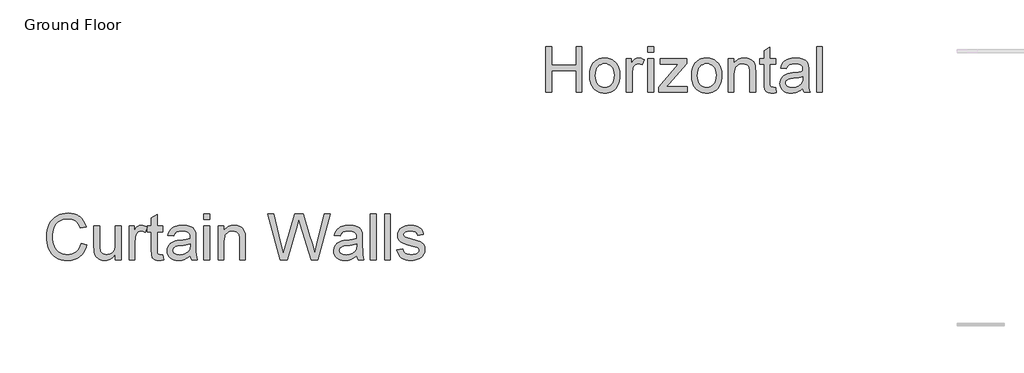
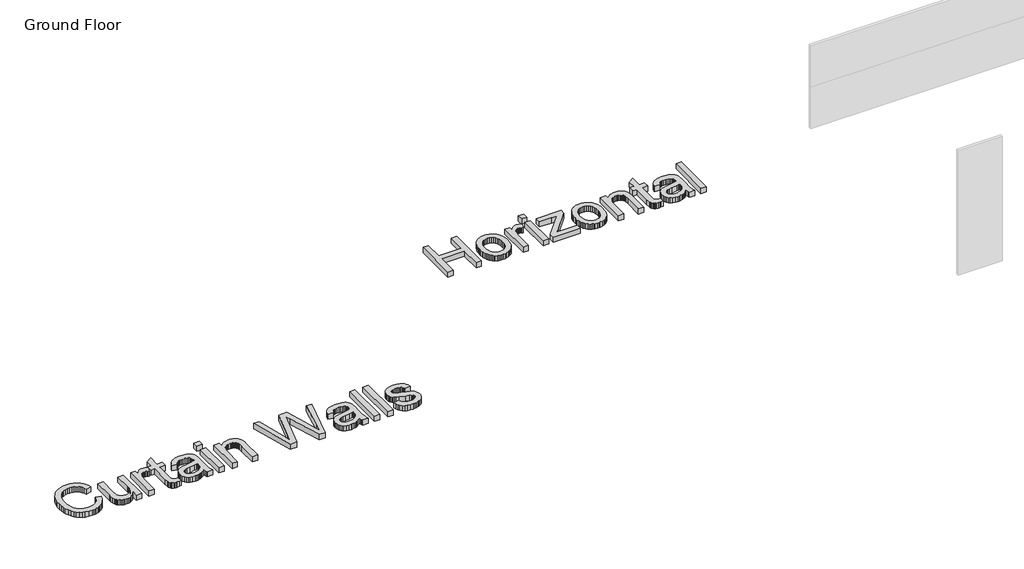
# One storey, part 4 of 7: 2 proxies.
"""IFC4 building model written with IfcOpenShell, lengths in millimetres."""

from ifc_helpers import new_model, si_unit, origin, origin_with_axes, place, context, project, spatial, polyline, outline, extrude, element, save

model = new_model("IFC4")

# Units and contexts
model_context = context("Model", 3, world=origin())
ifc_project = project(units=[si_unit("LENGTHUNIT", "METRE", prefix="MILLI")], contexts=[model_context])

# Site, building, storey
site = spatial("IfcSite", under=ifc_project)
building = spatial("IfcBuilding", under=site)
storey = spatial("IfcBuildingStorey", under=building, Name="Ground Floor", Elevation=0.0)

# Proxies
placement = place(None, origin())
element("IfcBuildingElementProxy", 1, Name="1200mm Arial", ObjectType="1200mm Arial", at=placement, inside=storey, context=model_context, shape_type="SweptSolid", body=[
    extrude(outline(polyline([(-73405.7068137, -17.5087086), (-73258.7977228, -55.3837086), (-73287.8675026, -146.7445929), (-73306.0204234, -188.1008828), (-73326.5853648, -226.5744047), (-73349.5623268, -262.1651584), (-73374.9513094, -294.873144), (-73402.7523126, -324.6983615), (-73432.9653364, -351.6408109), (-73465.2630992, -375.5480597), (-73499.3183194, -396.2676753), (-73535.1309969, -413.7996577), (-73572.7011319, -428.1440069), (-73612.0287242, -439.300723), (-73653.1137739, -447.2698059), (-73695.956281, -452.0512557), (-73740.5562455, -453.6450723), (-73830.1417391, -448.8210311), (-73910.9578791, -434.3489075), (-73983.0046653, -410.2287015), (-74046.2820978, -376.4604132), (-74101.6599387, -333.5461731), (-74150.0079501, -281.988112), (-74191.3261319, -221.7862299), (-74225.6144842, -152.9405268), (-74252.541242, -78.4279203), (-74271.7746404, -1.225328), (-74283.3146795, 78.6672502), (-74287.1613592, 161.2498141), (-74282.8125488, 249.8579462), (-74269.7661177, 332.6198425), (-74248.0220658, 409.535503), (-74217.5803933, 480.6049277), (-74179.122563, 544.6534895), (-74133.3300381, 600.5065612), (-74080.2028187, 648.1641429), (-74019.7409046, 687.6262345), (-73953.9976518, 718.5700378), (-73885.026416, 740.6727544), (-73812.8271972, 753.9343844), (-73737.3999955, 758.3549277), (-73653.3738059, 752.6342246), (-73576.3236461, 735.4721152), (-73540.4145774, 722.6005332), (-73506.2495161, 706.8685996), (-73473.8284623, 688.2763144), (-73443.151416, 666.8236777), (-73414.4784091, 642.7752047), (-73388.0694735, 616.3954107), (-73363.9246093, 587.6842956), (-73342.0438166, 556.6418595), (-73305.0744451, 487.5630243), (-73277.1613592, 409.158905), (-73424.0704501, 374.1532232), (-73447.2043279, 431.9251514), (-73475.0008478, 481.2863908), (-73507.4600097, 522.2369412), (-73544.5818137, 554.7768027), (-73586.5814586, 579.5695051), (-73633.6741433, 597.2785783), (-73685.8598677, 607.9040222), (-73743.1386319, 611.4458368), (-73809.0432839, 607.5184576), (-73869.3168989, 595.7363198), (-73923.9594771, 576.0994235), (-73972.9710183, 548.6077686), (-74015.7328258, 514.4987487), (-74051.6262029, 475.0097573), (-74080.6511496, 430.1407942), (-74102.807666, 379.8918595), (-74119.1896795, 326.5404746), (-74130.8911177, 272.3641607), (-74137.9119806, 217.3629178), (-74140.2522683, 161.5367459), (-74137.4815829, 91.3819164), (-74129.1695268, 25.8179959), (-74115.3160999, -35.1550155), (-74095.9213023, -91.5371177), (-74070.6713023, -142.2074835), (-74039.2522683, -186.0452853), (-74001.6642001, -223.0505233), (-73957.9070978, -253.2231973), (-73910.1060502, -276.6350403), (-73860.3861461, -293.3577853), (-73808.7473854, -303.3914324), (-73755.1897683, -306.7359814), (-73691.3205389, -302.1809388), (-73632.5622825, -288.5158109), (-73578.9149991, -265.7405978), (-73530.3786887, -233.8552995), (-73488.1010786, -193.0033819), (-73453.2298961, -143.3283109), (-73425.7651411, -84.8300865), (-73405.7068137, -17.5087086)])), origin_with_axes(), (0.0, 0.0, 1.0), 150.0),
    extrude(outline(polyline([(-72524.2522683, -435.2814359), (-72524.2522683, -286.9376859), (-72549.7354004, -326.0097296), (-72577.4063876, -359.8721674), (-72607.2652299, -388.5249995), (-72639.3119273, -411.9682257), (-72673.5464799, -430.2018461), (-72709.9688876, -443.2258606), (-72748.5791504, -451.0402694), (-72789.3772683, -453.6450723), (-72825.7727761, -451.8158819), (-72860.9308904, -446.3283109), (-72894.8516113, -437.1823592), (-72927.5349387, -424.3780268), (-72957.5372469, -408.8119757), (-72983.4149103, -391.3808677), (-73005.1679288, -372.084703), (-73022.7963023, -350.9234814), (-73037.2056596, -327.5923379), (-73049.3016291, -301.7864075), (-73066.5534046, -242.7501859), (-73073.0093705, -187.0854132), (-73075.1613592, -106.1706405), (-73075.1613592, 427.8094732), (-72928.2522683, 427.8094732), (-72928.2522683, -37.0200723), (-72926.0285467, -129.9859814), (-72919.3573819, -186.7984814), (-72910.5611283, -213.2769082), (-72897.945095, -236.7604842), (-72881.5092817, -257.2492093), (-72861.2536887, -274.7430836), (-72837.788046, -288.7399764), (-72811.7220836, -298.7377569), (-72783.0558016, -304.7364253), (-72751.7892001, -306.7359814), (-72719.5900701, -304.6915922), (-72688.4131347, -298.5584245), (-72658.258394, -288.3364785), (-72629.1258478, -274.0257541), (-72602.5936212, -256.1911483), (-72580.2398393, -235.3975581), (-72562.0645019, -211.6449835), (-72548.0676092, -184.9334245), (-72537.6483975, -153.5592236), (-72530.2061035, -115.8187228), (-72525.7407271, -71.7119224), (-72524.2522683, -21.2388223), (-72524.2522683, 427.8094732), (-72377.3431773, 427.8094732), (-72377.3431773, -435.2814359), (-72524.2522683, -435.2814359)])), origin_with_axes(), (0.0, 0.0, 1.0), 150.0),
    extrude(outline(polyline([(-72175.3431773, -435.2814359), (-72175.3431773, 427.8094732), (-72046.7977228, 427.8094732), (-72046.7977228, 300.1248141), (-72022.5878506, 340.9408652), (-71999.3105069, 374.1532232), (-71976.9656916, 399.761888), (-71955.5534046, 417.7668595), (-71934.1052512, 430.1945939), (-71911.6528364, 439.071547), (-71888.1961603, 444.3977189), (-71863.7352228, 446.1731095), (-71827.2948819, 443.3396578), (-71790.5676092, 434.8393027), (-71753.5534046, 420.6720442), (-71716.2522683, 400.8378823), (-71765.3176092, 269.1361777), (-71791.1414728, 282.3171081), (-71816.9653364, 291.7320584), (-71842.7892001, 297.3810286), (-71868.6130637, 299.2640186), (-71891.1282448, 297.4527615), (-71912.4777654, 292.0189902), (-71932.6616255, 282.9627047), (-71951.6798251, 270.283905), (-71968.8150346, 254.3950556), (-71983.3499245, 235.7086209), (-71995.2844948, 214.224601), (-72004.6187455, 189.9429959), (-72015.0379572, 149.8442743), (-72022.4802512, 107.8804959), (-72028.4340864, 18.3577686), (-72028.4340864, -435.2814359), (-72175.3431773, -435.2814359)])), origin_with_axes(), (0.0, 0.0, 1.0), 150.0),
    extrude(outline(polyline([(-71312.2522683, -312.7615495), (-71293.8886319, -439.5854132), (-71352.064058, -450.1301575), (-71403.7835183, -453.6450723), (-71441.2819202, -452.120747), (-71474.2970126, -447.5477711), (-71502.8287952, -439.9261447), (-71526.8772683, -429.2558677), (-71547.070095, -416.1108038), (-71564.0349387, -401.0648166), (-71577.7717995, -384.1179061), (-71588.2806773, -365.2700723), (-71596.0637029, -340.002139), (-71601.6230069, -303.7949302), (-71606.0704501, -198.5626859), (-71606.0704501, 280.9003823), (-71716.2522683, 280.9003823), (-71716.2522683, 427.8094732), (-71606.0704501, 427.8094732), (-71606.0704501, 637.5566323), (-71459.1613592, 723.9231095), (-71459.1613592, 427.8094732), (-71312.2522683, 427.8094732), (-71312.2522683, 280.9003823), (-71459.1613592, 280.9003823), (-71459.1613592, -194.2587086), (-71457.2245694, -242.60672), (-71451.4142001, -270.0087086), (-71441.263987, -285.1802285), (-71426.307666, -296.8368336), (-71405.1105779, -304.2611944), (-71376.2380637, -306.7359814), (-71312.2522683, -312.7615495)])), origin_with_axes(), (0.0, 0.0, 1.0), 150.0),
    extrude(outline(polyline([(-70614.4340864, -325.0996177), (-70649.2694025, -357.7919118), (-70684.6247825, -385.2835666), (-70720.5002264, -407.5745822), (-70756.8957342, -424.6649586), (-70794.2237704, -437.3437584), (-70832.8967995, -446.4000439), (-70872.9148215, -451.8338152), (-70914.2778364, -453.6450723), (-70979.6893244, -449.2872953), (-71037.0487881, -436.2139643), (-71086.3562278, -414.4250794), (-71127.6116433, -383.9206405), (-71160.1873712, -346.6374373), (-71183.4557484, -304.5122598), (-71197.4167746, -257.5451078), (-71202.0704501, -205.7359814), (-71200.3129927, -174.5859459), (-71195.0406205, -144.834703), (-71186.2533336, -116.4822527), (-71173.9511319, -89.528595), (-71158.7885786, -64.5655268), (-71141.420237, -42.184845), (-71121.846107, -22.3865495), (-71100.0661887, -5.1706405), (-71051.467112, 22.8052118), (-70997.2011319, 43.033905), (-70944.3339444, 54.2959789), (-70870.0903364, 65.127655), (-70719.8815296, 88.3691323), (-70661.8854359, 101.496263), (-70615.2948819, 115.627655), (-70614.4340864, 148.3378823), (-70616.9626731, 183.9532942), (-70624.548433, 213.9018027), (-70637.1913663, 238.1834078), (-70654.8914728, 256.7981095), (-70685.4855779, 275.3769448), (-70722.7508478, 288.6475414), (-70766.6872825, 296.6098993), (-70817.2948819, 299.2640186), (-70864.3517001, 297.4975946), (-70904.8090864, 292.1983226), (-70938.667041, 283.3662026), (-70965.9255637, 271.0012345), (-70988.3241788, 254.1350236), (-71007.6024103, 231.7991749), (-71023.7602583, 203.9936884), (-71036.7977228, 170.7185641), (-71183.7068137, 189.0822005), (-71172.5254394, 231.4046436), (-71158.2057484, 269.4231095), (-71140.7477406, 303.1375982), (-71120.151416, 332.5481095), (-71095.5290793, 358.2464405), (-71065.9930353, 380.824388), (-71031.5432839, 400.2819519), (-70992.1798251, 416.6191323), (-70948.700688, 429.5489973), (-70901.9039018, 438.7846152), (-70851.7894664, 444.325986), (-70798.3573819, 446.1731095), (-70746.1268244, 444.5411848), (-70699.0431063, 439.6454107), (-70657.1062278, 431.4857871), (-70620.3161887, 420.0623141), (-70588.3681241, 406.1730208), (-70560.9571688, 390.6159362), (-70538.0833229, 373.3910605), (-70519.7465864, 354.4983936), (-70504.8799316, 333.4716713), (-70492.4163308, 309.8446294), (-70474.698291, 254.7895868), (-70469.3183194, 204.002655), (-70467.5249955, 126.2441323), (-70467.5249955, -56.5314359), (-70465.6599387, -215.7427285), (-70460.0647683, -311.7572882), (-70449.0178933, -374.8464217), (-70430.7977228, -435.2814359), (-70577.7068137, -435.2814359), (-70590.7622114, -410.7487655), (-70601.2352228, -384.2075723), (-70614.4340864, -325.0996177)]), holes=[polyline([(-70614.4340864, -31.2814359), (-70658.8367853, -43.9961021), (-70713.1386319, -55.7423734), (-70851.4397683, -76.3297314), (-70927.6560325, -87.5918052), (-70977.8332342, -100.1450723), (-71010.7227938, -116.428453), (-71035.0761319, -138.8808677), (-71050.1400523, -165.7807257), (-71055.1613592, -195.4064359), (-71052.4265403, -218.2354487), (-71044.2220836, -239.0918052), (-71030.5479891, -257.9755055), (-71011.4042569, -274.8865495), (-70986.9702192, -288.820676), (-70957.4252086, -298.7736234), (-70922.7692249, -304.7453919), (-70883.0022683, -306.7359814), (-70842.401416, -304.5391596), (-70804.0960183, -297.9486944), (-70768.0860751, -286.9645858), (-70734.3715864, -271.5868336), (-70703.9568137, -253.088698), (-70677.8460183, -232.7434388), (-70656.0392001, -210.5510559), (-70638.5363592, -186.5115495), (-70628.3682129, -164.9916632), (-70621.1052512, -138.8808677), (-70616.7474742, -108.1791632), (-70615.2948819, -72.8865495), (-70614.4340864, -31.2814359)])]), origin_with_axes(), (0.0, 0.0, 1.0), 150.0),
    extrude(outline(polyline([(-70265.5249955, -435.2814359), (-70265.5249955, 427.8094732), (-70118.6159046, 427.8094732), (-70118.6159046, -435.2814359), (-70265.5249955, -435.2814359)])), origin_with_axes(), (0.0, 0.0, 1.0), 150.0),
    extrude(outline(polyline([(-70265.5249955, 593.0822005), (-70265.5249955, 739.9912914), (-70118.6159046, 739.9912914), (-70118.6159046, 593.0822005), (-70265.5249955, 593.0822005)])), origin_with_axes(), (0.0, 0.0, 1.0), 150.0),
    extrude(outline(polyline([(-69898.2522683, -435.2814359), (-69898.2522683, 427.8094732), (-69751.3431773, 427.8094732), (-69751.3431773, 307.2981095), (-69727.1064053, 339.8469377), (-69700.3051802, 368.055922), (-69670.9395019, 391.9250627), (-69639.0093705, 411.4543595), (-69604.514786, 426.6438127), (-69567.4557484, 437.493422), (-69527.8322576, 444.0031877), (-69485.6443137, 446.1731095), (-69448.6749423, 444.4246188), (-69413.2298961, 439.1791465), (-69379.3091752, 430.4366926), (-69346.9127796, 418.1972573), (-69317.2691362, 403.1154036), (-69291.6066717, 385.8456948), (-69269.9253862, 366.3881309), (-69252.2252796, 344.7427118), (-69225.5047541, 294.9959078), (-69208.1812455, 236.7128823), (-69202.3708762, 180.9763766), (-69200.4340864, 94.6816323), (-69200.4340864, -435.2814359), (-69347.3431773, -435.2814359), (-69347.3431773, 74.8833368), (-69351.5754217, 150.8485357), (-69356.8657271, 180.5997786), (-69364.2721546, 204.8634505), (-69374.3596014, 225.2983759), (-69387.6929643, 243.5633794), (-69404.2722434, 259.6584611), (-69424.0974387, 273.5836209), (-69446.4870871, 284.8187949), (-69470.7597256, 292.8439192), (-69496.9153542, 297.6589938), (-69524.9539728, 299.2640186), (-69569.5629039, 295.6594377), (-69610.9976518, 284.8456948), (-69649.2582164, 266.8227899), (-69684.3445978, 241.5907232), (-69700.0473899, 225.5539245), (-69713.6564764, 206.2801763), (-69725.1718572, 183.7694785), (-69734.5935325, 158.0218311), (-69747.1557661, 96.8156877), (-69751.3431773, 22.6617459), (-69751.3431773, -435.2814359), (-69898.2522683, -435.2814359)])), origin_with_axes(), (0.0, 0.0, 1.0), 150.0),
    extrude(outline(polyline([(-68310.6585183, -435.2814359), (-68631.1613592, 739.9912914), (-68479.6613592, 739.9912914), (-68293.729541, -32.4291632), (-68236.3431773, -270.8695041), (-68174.9397683, -59.9746177), (-67941.9511319, 739.9912914), (-67723.5960183, 739.9912914), (-67554.3062455, 160.1020868), (-67515.6601163, 52.574388), (-67481.7842285, -55.0967768), (-67452.6785822, -162.9114075), (-67428.3431773, -270.8695041), (-67372.6784046, -39.3155268), (-67185.0249955, 739.9912914), (-67033.5249955, 739.9912914), (-67354.3147683, -435.2814359), (-67511.2664728, -435.2814359), (-67793.0335183, 471.4231095), (-67832.3431773, 597.9600414), (-67876.5306773, 445.5992459), (-68133.3346546, -435.2814359), (-68310.6585183, -435.2814359)])), origin_with_axes(), (0.0, 0.0, 1.0), 150.0),
    extrude(outline(polyline([(-66354.0704501, -325.0996177), (-66388.9057661, -357.7919118), (-66424.2611461, -385.2835666), (-66460.13659, -407.5745822), (-66496.5320978, -424.6649586), (-66533.860134, -437.3437584), (-66572.5331631, -446.4000439), (-66612.5511852, -451.8338152), (-66653.9142001, -453.6450723), (-66719.325688, -449.2872953), (-66776.6851518, -436.2139643), (-66825.9925914, -414.4250794), (-66867.2480069, -383.9206405), (-66899.8237349, -346.6374373), (-66923.092112, -304.5122598), (-66937.0531383, -257.5451078), (-66941.7068137, -205.7359814), (-66939.9493563, -174.5859459), (-66934.6769842, -144.834703), (-66925.8896972, -116.4822527), (-66913.5874955, -89.528595), (-66898.4249423, -64.5655268), (-66881.0566006, -42.184845), (-66861.4824707, -22.3865495), (-66839.7025523, -5.1706405), (-66791.1034756, 22.8052118), (-66736.8374955, 43.033905), (-66683.970308, 54.2959789), (-66609.7267001, 65.127655), (-66459.5178933, 88.3691323), (-66401.5217995, 101.496263), (-66354.9312455, 115.627655), (-66354.0704501, 148.3378823), (-66356.5990367, 183.9532942), (-66364.1847967, 213.9018027), (-66376.8277299, 238.1834078), (-66394.5278364, 256.7981095), (-66425.1219416, 275.3769448), (-66462.3872114, 288.6475414), (-66506.3236461, 296.6098993), (-66556.9312455, 299.2640186), (-66603.9880637, 297.4975946), (-66644.4454501, 292.1983226), (-66678.3034046, 283.3662026), (-66705.5619273, 271.0012345), (-66727.9605424, 254.1350236), (-66747.2387739, 231.7991749), (-66763.3966219, 203.9936884), (-66776.4340864, 170.7185641), (-66923.3431773, 189.0822005), (-66912.1618031, 231.4046436), (-66897.842112, 269.4231095), (-66880.3841042, 303.1375982), (-66859.7877796, 332.5481095), (-66835.165443, 358.2464405), (-66805.6293989, 380.824388), (-66771.1796475, 400.2819519), (-66731.8161887, 416.6191323), (-66688.3370516, 429.5489973), (-66641.5402654, 438.7846152), (-66591.42583, 444.325986), (-66537.9937455, 446.1731095), (-66485.763188, 444.5411848), (-66438.67947, 439.6454107), (-66396.7425914, 431.4857871), (-66359.9525523, 420.0623141), (-66328.0044877, 406.1730208), (-66300.5935325, 390.6159362), (-66277.7196866, 373.3910605), (-66259.3829501, 354.4983936), (-66244.5162952, 333.4716713), (-66232.0526944, 309.8446294), (-66214.3346546, 254.7895868), (-66208.954683, 204.002655), (-66207.1613592, 126.2441323), (-66207.1613592, -56.5314359), (-66205.2963023, -215.7427285), (-66199.7011319, -311.7572882), (-66188.6542569, -374.8464217), (-66170.4340864, -435.2814359), (-66317.3431773, -435.2814359), (-66330.3985751, -410.7487655), (-66340.8715864, -384.2075723), (-66354.0704501, -325.0996177)]), holes=[polyline([(-66354.0704501, -31.2814359), (-66398.4731489, -43.9961021), (-66452.7749955, -55.7423734), (-66591.0761319, -76.3297314), (-66667.2923961, -87.5918052), (-66717.4695978, -100.1450723), (-66750.3591575, -116.428453), (-66774.7124955, -138.8808677), (-66789.776416, -165.7807257), (-66794.7977228, -195.4064359), (-66792.0629039, -218.2354487), (-66783.8584472, -239.0918052), (-66770.1843528, -257.9755055), (-66751.0406205, -274.8865495), (-66726.6065829, -288.820676), (-66697.0615722, -298.7736234), (-66662.4055886, -304.7453919), (-66622.6386319, -306.7359814), (-66582.0377796, -304.5391596), (-66543.7323819, -297.9486944), (-66507.7224387, -286.9645858), (-66474.0079501, -271.5868336), (-66443.5931773, -253.088698), (-66417.4823819, -232.7434388), (-66395.6755637, -210.5510559), (-66378.1727228, -186.5115495), (-66368.0045765, -164.9916632), (-66360.7416148, -138.8808677), (-66356.3838379, -108.1791632), (-66354.9312455, -72.8865495), (-66354.0704501, -31.2814359)])]), origin_with_axes(), (0.0, 0.0, 1.0), 150.0),
    extrude(outline(polyline([(-66005.1613592, -435.2814359), (-66005.1613592, 739.9912914), (-65858.2522683, 739.9912914), (-65858.2522683, -435.2814359), (-66005.1613592, -435.2814359)])), origin_with_axes(), (0.0, 0.0, 1.0), 150.0),
    extrude(outline(polyline([(-65637.8886319, -435.2814359), (-65637.8886319, 739.9912914), (-65490.979541, 739.9912914), (-65490.979541, -435.2814359), (-65637.8886319, -435.2814359)])), origin_with_axes(), (0.0, 0.0, 1.0), 150.0),
    extrude(outline(polyline([(-65325.7068137, -178.1905268), (-65178.7977228, -159.8268905), (-65169.9207697, -193.3261802), (-65155.6279785, -222.6649586), (-65135.9193492, -247.8432257), (-65110.7948819, -268.8609814), (-65080.1828435, -285.4312939), (-65044.0115012, -297.2672314), (-65002.2808549, -304.3687939), (-64954.9909046, -306.7359814), (-64907.7547541, -304.5660595), (-64867.0463023, -298.0562939), (-64832.8655495, -287.2066845), (-64805.2124955, -272.0172314), (-64783.8719416, -253.9046603), (-64768.6286887, -234.2856973), (-64759.482737, -213.1603422), (-64756.4340864, -190.528595), (-64759.5006702, -170.6944331), (-64768.7004217, -153.0839927), (-64784.0333407, -137.697274), (-64805.4994273, -124.5342768), (-64860.5186035, -105.8837086), (-64956.7124955, -82.6422314), (-65090.7813876, -43.8705694), (-65177.9369273, -10.7658109), (-65207.858536, 5.8314014), (-65233.9244984, 25.3517317), (-65256.1348144, 47.7951799), (-65274.4894842, 73.1617459), (-65288.8629749, 100.6892672), (-65299.1297541, 129.6155811), (-65305.2898215, 159.9406877), (-65307.3431773, 191.6645868), (-65305.6933194, 220.6716003), (-65300.7437455, 248.5846862), (-65292.4944558, 275.4038446), (-65280.9454501, 301.1290755), (-65266.5450594, 325.2403148), (-65249.7416148, 347.2174987), (-65230.5351163, 367.0606273), (-65208.9255637, 384.7697005), (-65168.3605779, 408.405709), (-65115.5292569, 428.2398709), (-65054.4486461, 441.6897999), (-64989.135791, 446.1731095), (-64939.765585, 444.3708191), (-64893.5157626, 438.9639476), (-64850.3863237, 429.9524952), (-64810.3772683, 417.3364618), (-64774.439058, 401.644878), (-64743.5221546, 383.4067743), (-64717.626558, 362.6221507), (-64696.7522683, 339.2910073), (-64679.823291, 312.5973816), (-64665.7636319, 281.7253112), (-64654.573291, 246.6747963), (-64646.2522683, 207.4458368), (-64793.1613592, 189.0822005), (-64800.1642889, 213.6238375), (-64811.7043279, 235.3140897), (-64827.7814764, 254.1529568), (-64848.3957342, 270.1404391), (-64873.6367675, 282.8820051), (-64903.5942427, 291.9831237), (-64938.2681596, 297.4437949), (-64977.6585183, 299.2640186), (-65023.3524103, 297.5244945), (-65062.0164728, 292.305922), (-65093.6507058, 283.6083013), (-65118.2551092, 271.4316323), (-65136.7084117, 256.9415755), (-65149.8893421, 241.3037914), (-65157.7979004, 224.51828), (-65160.4340864, 206.5850414), (-65156.0583762, 183.9891607), (-65142.9312455, 163.8322005), (-65120.4788308, 145.8272289), (-65088.1272683, 131.408905), (-64961.5903364, 100.1333368), (-64831.7895552, 61.7562061), (-64745.9610751, 30.9827686), (-64715.7615012, 15.9726479), (-64689.0051092, -2.0861234), (-64665.6918989, -23.1935453), (-64645.8218705, -47.3496177), (-64629.9419877, -74.5902072), (-64618.5992143, -104.9511802), (-64611.7935502, -138.4325368), (-64609.5249955, -175.0342768), (-64612.1880815, -211.797416), (-64620.1773393, -247.4845609), (-64633.492769, -282.0957115), (-64652.1343705, -315.6308677), (-64675.7972789, -346.7540034), (-64704.1766291, -374.1290922), (-64737.272421, -397.7561341), (-64775.0846546, -417.6351291), (-64816.5821688, -433.3894792), (-64860.7338023, -444.6425865), (-64907.5395552, -451.3944508), (-64956.9994273, -453.6450723), (-65036.0670765, -449.3052285), (-65105.1279785, -436.2856973), (-65164.1821333, -414.5864785), (-65213.229541, -384.2075723), (-65253.2923961, -345.2924444), (-65285.3928933, -297.9845609), (-65309.5310325, -242.2839217), (-65325.7068137, -178.1905268)])), origin_with_axes(), (0.0, 0.0, 1.0), 150.0),
])
element("IfcBuildingElementProxy", 2, Name="1200mm Arial", ObjectType="1200mm Arial", at=placement, inside=storey, context=model_context, shape_type="SweptSolid", body=[
    extrude(outline(polyline([(-61516.4411736, 3850.5609939), (-61516.4411736, 5025.8337212), (-61369.5320827, 5025.8337212), (-61369.5320827, 4548.3791757), (-60745.1684463, 4548.3791757), (-60745.1684463, 5025.8337212), (-60598.2593554, 5025.8337212), (-60598.2593554, 3850.5609939), (-60745.1684463, 3850.5609939), (-60745.1684463, 4401.4700848), (-61369.5320827, 4401.4700848), (-61369.5320827, 3850.5609939), (-61516.4411736, 3850.5609939)])), origin_with_axes(), (0.0, 0.0, 1.0), 150.0),
    extrude(outline(polyline([(-60396.2593554, 4282.1064484), (-60394.2732492, 4339.9276931), (-60388.3149307, 4393.8843249), (-60378.3843998, 4443.9763437), (-60364.4816565, 4490.2037496), (-60346.6067009, 4532.5665425), (-60324.7595329, 4571.0647226), (-60298.9401526, 4605.6982897), (-60269.1485599, 4636.4672439), (-60241.8810706, 4658.8613756), (-60213.1609889, 4678.2696231), (-60182.9883149, 4694.6919864), (-60151.3630486, 4708.1284655), (-60118.2851899, 4718.5790603), (-60083.7547389, 4726.0437709), (-60010.3360599, 4732.0155393), (-59968.8407874, 4730.1975573), (-59929.2867879, 4724.7436111), (-59891.6740615, 4715.6537007), (-59856.0026082, 4702.9278263), (-59822.272428, 4686.5659877), (-59790.4835209, 4666.5681849), (-59760.6358868, 4642.9344181), (-59732.7295258, 4615.6646871), (-59707.4772842, 4585.1893897), (-59685.5920081, 4551.9389236), (-59667.0736975, 4515.9132888), (-59651.9223525, 4477.1124854), (-59640.1379731, 4435.5365132), (-59631.7205592, 4391.1853724), (-59626.6701109, 4344.059063), (-59624.9866281, 4294.1575848), (-59627.9635457, 4215.5203334), (-59636.8942986, 4145.7421018), (-59651.7788866, 4084.8228902), (-59672.6173099, 4032.7626984), (-59699.1495365, 3987.7951026), (-59731.1155344, 3948.1536785), (-59768.5153035, 3913.8384264), (-59811.348844, 3884.8493462), (-59857.9483646, 3861.8141011), (-59906.6460741, 3845.3603547), (-59957.4419726, 3835.4881068), (-60010.3360599, 3832.1973575), (-60052.4858957, 3834.0086146), (-60092.5689257, 3839.4423859), (-60130.5851499, 3848.4986714), (-60166.5345684, 3861.1774712), (-60200.4171812, 3877.4787851), (-60232.2329882, 3897.4026132), (-60261.9819894, 3920.9489555), (-60289.6641849, 3948.1178121), (-60314.647428, 3978.6939839), (-60336.299572, 4012.4622723), (-60354.6206169, 4049.4226771), (-60369.6105628, 4089.5751984), (-60381.2694095, 4132.9198362), (-60389.5971572, 4179.4565905), (-60394.5938058, 4229.1854612), (-60396.2593554, 4282.1064484)]), holes=[polyline([(-60249.3502645, 4282.3933802), (-60245.1000869, 4211.1356565), (-60232.3495542, 4149.436349), (-60211.0986665, 4097.2954577), (-60181.3474236, 4054.7129825), (-60145.158148, 4021.6351239), (-60104.5931622, 3998.008082), (-60059.6524662, 3983.8318568), (-60010.3360599, 3979.1064484), (-59961.270719, 3983.8587567), (-59916.5093554, 3998.1156814), (-59876.051969, 4021.8772226), (-59839.8985599, 4055.1433802), (-59810.147317, 4098.1472865), (-59788.8964292, 4151.1220734), (-59776.1458966, 4214.067741), (-59771.895719, 4286.9842893), (-59776.1727964, 4355.982425), (-59789.0040287, 4416.067741), (-59810.3894157, 4467.2402375), (-59840.3289577, 4509.4999143), (-59876.616866, 4542.577773), (-59917.0473525, 4566.2048149), (-59961.6204172, 4580.3810401), (-60010.3360599, 4585.1064484), (-60059.6524662, 4580.3989733), (-60104.5931622, 4566.2765479), (-60145.158148, 4542.7391722), (-60181.3474236, 4509.7868462), (-60211.0986665, 4467.3299037), (-60232.3495542, 4415.2786785), (-60245.1000869, 4353.6331707), (-60249.3502645, 4282.3933802)])]), origin_with_axes(), (0.0, 0.0, 1.0), 150.0),
    extrude(outline(polyline([(-59459.7139008, 3850.5609939), (-59459.7139008, 4713.651903), (-59331.1684463, 4713.651903), (-59331.1684463, 4585.9672439), (-59306.9585741, 4626.783295), (-59283.6812304, 4659.995653), (-59261.336415, 4685.6043177), (-59239.9241281, 4703.6092893), (-59218.4759747, 4716.0370237), (-59196.0235599, 4724.9139768), (-59172.5668838, 4730.2401487), (-59148.1059463, 4732.0155393), (-59111.6656054, 4729.1820876), (-59074.9383327, 4720.6817325), (-59037.9241281, 4706.514474), (-59000.6229917, 4686.6803121), (-59049.6883327, 4554.9786075), (-59075.5121963, 4568.1595379), (-59101.3360599, 4577.5744882), (-59127.1599236, 4583.2234584), (-59152.9837872, 4585.1064484), (-59175.4989683, 4583.2951913), (-59196.8484889, 4577.86142), (-59217.032349, 4568.8051345), (-59236.0505486, 4556.1263348), (-59253.1857581, 4540.2374854), (-59267.720648, 4521.5510507), (-59279.6552183, 4500.0670308), (-59288.989469, 4475.7854257), (-59299.4086807, 4435.6867041), (-59306.8509747, 4393.7229257), (-59312.8048099, 4304.2001984), (-59312.8048099, 3850.5609939), (-59459.7139008, 3850.5609939)])), origin_with_axes(), (0.0, 0.0, 1.0), 150.0),
    extrude(outline(polyline([(-58908.8048099, 4878.9246302), (-58908.8048099, 5025.8337212), (-58761.895719, 5025.8337212), (-58761.895719, 4878.9246302), (-58908.8048099, 4878.9246302)])), origin_with_axes(), (0.0, 0.0, 1.0), 150.0),
    extrude(outline(polyline([(-58908.8048099, 3850.5609939), (-58908.8048099, 4713.651903), (-58761.895719, 4713.651903), (-58761.895719, 3850.5609939), (-58908.8048099, 3850.5609939)])), origin_with_axes(), (0.0, 0.0, 1.0), 150.0),
    extrude(outline(polyline([(-58633.3502645, 3850.5609939), (-58633.3502645, 3988.8621302), (-58126.3417417, 4566.7428121), (-58276.4070827, 4566.7428121), (-58596.6229917, 4566.7428121), (-58596.6229917, 4713.651903), (-57917.1684463, 4713.651903), (-57917.1684463, 4588.8365621), (-58366.7906054, 4076.089403), (-58435.6542417, 3997.4700848), (-58265.7906054, 3997.4700848), (-57898.8048099, 3997.4700848), (-57898.8048099, 3850.5609939), (-58633.3502645, 3850.5609939)])), origin_with_axes(), (0.0, 0.0, 1.0), 150.0),
    extrude(outline(polyline([(-57788.6229917, 4282.1064484), (-57786.6368856, 4339.9276931), (-57780.678567, 4393.8843249), (-57770.7480361, 4443.9763437), (-57756.8452929, 4490.2037496), (-57738.9703373, 4532.5665425), (-57717.1231693, 4571.0647226), (-57691.303789, 4605.6982897), (-57661.5121963, 4636.4672439), (-57634.2447069, 4658.8613756), (-57605.5246253, 4678.2696231), (-57575.3519513, 4694.6919864), (-57543.7266849, 4708.1284655), (-57510.6488263, 4718.5790603), (-57476.1183753, 4726.0437709), (-57402.6996963, 4732.0155393), (-57361.2044237, 4730.1975573), (-57321.6504243, 4724.7436111), (-57284.0376979, 4715.6537007), (-57248.3662446, 4702.9278263), (-57214.6360644, 4686.5659877), (-57182.8471572, 4666.5681849), (-57152.9995232, 4642.9344181), (-57125.0931622, 4615.6646871), (-57099.8409205, 4585.1893897), (-57077.9556444, 4551.9389236), (-57059.4373339, 4515.9132888), (-57044.2859889, 4477.1124854), (-57032.5016095, 4435.5365132), (-57024.0841956, 4391.1853724), (-57019.0337472, 4344.059063), (-57017.3502645, 4294.1575848), (-57020.3271821, 4215.5203334), (-57029.2579349, 4145.7421018), (-57044.142523, 4084.8228902), (-57064.9809463, 4032.7626984), (-57091.5131728, 3987.7951026), (-57123.4791707, 3948.1536785), (-57160.8789399, 3913.8384264), (-57203.7124804, 3884.8493462), (-57250.312001, 3861.8141011), (-57299.0097105, 3845.3603547), (-57349.8056089, 3835.4881068), (-57402.6996963, 3832.1973575), (-57444.849532, 3834.0086146), (-57484.9325621, 3839.4423859), (-57522.9487863, 3848.4986714), (-57558.8982048, 3861.1774712), (-57592.7808176, 3877.4787851), (-57624.5966246, 3897.4026132), (-57654.3456258, 3920.9489555), (-57682.0278213, 3948.1178121), (-57707.0110644, 3978.6939839), (-57728.6632084, 4012.4622723), (-57746.9842533, 4049.4226771), (-57761.9741991, 4089.5751984), (-57773.6330459, 4132.9198362), (-57781.9607936, 4179.4565905), (-57786.9574422, 4229.1854612), (-57788.6229917, 4282.1064484)]), holes=[polyline([(-57641.7139008, 4282.3933802), (-57637.4637233, 4211.1356565), (-57624.7131906, 4149.436349), (-57603.4623028, 4097.2954577), (-57573.7110599, 4054.7129825), (-57537.5217844, 4021.6351239), (-57496.9567986, 3998.008082), (-57452.0161025, 3983.8318568), (-57402.6996963, 3979.1064484), (-57353.6343554, 3983.8587567), (-57308.8729917, 3998.1156814), (-57268.4156054, 4021.8772226), (-57232.2621963, 4055.1433802), (-57202.5109534, 4098.1472865), (-57181.2600656, 4151.1220734), (-57168.5095329, 4214.067741), (-57164.2593554, 4286.9842893), (-57168.5364328, 4355.982425), (-57181.367665, 4416.067741), (-57202.7530521, 4467.2402375), (-57232.692594, 4509.4999143), (-57268.9805024, 4542.577773), (-57309.4109889, 4566.2048149), (-57353.9840535, 4580.3810401), (-57402.6996963, 4585.1064484), (-57452.0161025, 4580.3989733), (-57496.9567986, 4566.2765479), (-57537.5217844, 4542.7391722), (-57573.7110599, 4509.7868462), (-57603.4623028, 4467.3299037), (-57624.7131906, 4415.2786785), (-57637.4637233, 4353.6331707), (-57641.7139008, 4282.3933802)])]), origin_with_axes(), (0.0, 0.0, 1.0), 150.0),
    extrude(outline(polyline([(-56852.0775372, 3850.5609939), (-56852.0775372, 4713.651903), (-56705.1684463, 4713.651903), (-56705.1684463, 4593.1405393), (-56680.9316743, 4625.6893675), (-56654.1304491, 4653.8983518), (-56624.7647709, 4677.7674925), (-56592.8346395, 4697.2967893), (-56558.340055, 4712.4862425), (-56521.2810173, 4723.3358518), (-56481.6575265, 4729.8456175), (-56439.4695827, 4732.0155393), (-56402.5002112, 4730.2670486), (-56367.055165, 4725.0215763), (-56333.1344442, 4716.2791224), (-56300.7380486, 4704.0396871), (-56271.0944051, 4688.9578334), (-56245.4319406, 4671.6881246), (-56223.7506551, 4652.2305606), (-56206.0505486, 4630.5851416), (-56179.330023, 4580.8383376), (-56162.0065145, 4522.5553121), (-56156.1961452, 4466.8188064), (-56154.2593554, 4380.5240621), (-56154.2593554, 3850.5609939), (-56301.1684463, 3850.5609939), (-56301.1684463, 4360.7257666), (-56305.4006906, 4436.6909655), (-56310.690996, 4466.4422084), (-56318.0974236, 4490.7058802), (-56328.1848703, 4511.1408057), (-56341.5182332, 4529.4058092), (-56358.0975123, 4545.5008909), (-56377.9227077, 4559.4260507), (-56400.3123561, 4570.6612247), (-56424.5849946, 4578.686349), (-56450.7406231, 4583.5014236), (-56478.7792417, 4585.1064484), (-56523.3881728, 4581.5018675), (-56564.8229207, 4570.6881246), (-56603.0834853, 4552.6652197), (-56638.1698667, 4527.433153), (-56653.8726588, 4511.3963543), (-56667.4817453, 4492.1226061), (-56678.9971262, 4469.6119083), (-56688.4188014, 4443.8642609), (-56700.9810351, 4382.6581175), (-56705.1684463, 4308.5041757), (-56705.1684463, 3850.5609939), (-56852.0775372, 3850.5609939)])), origin_with_axes(), (0.0, 0.0, 1.0), 150.0),
    extrude(outline(polyline([(-55640.0775372, 3973.0808802), (-55621.7139008, 3846.2570166), (-55679.889327, 3835.7122723), (-55731.6087872, 3832.1973575), (-55769.1071892, 3833.7216828), (-55802.1222815, 3838.2946587), (-55830.6540642, 3845.9162851), (-55854.7025372, 3856.5865621), (-55874.8953639, 3869.731626), (-55891.8602077, 3884.7776132), (-55905.5970684, 3901.7245237), (-55916.1059463, 3920.5723575), (-55923.8889719, 3945.8402908), (-55929.4482758, 3982.0474996), (-55933.895719, 4087.2797439), (-55933.895719, 4566.7428121), (-56044.0775372, 4566.7428121), (-56044.0775372, 4713.651903), (-55933.895719, 4713.651903), (-55933.895719, 4923.3990621), (-55786.9866281, 5009.7655393), (-55786.9866281, 4713.651903), (-55640.0775372, 4713.651903), (-55640.0775372, 4566.7428121), (-55786.9866281, 4566.7428121), (-55786.9866281, 4091.5837212), (-55785.0498383, 4043.2357098), (-55779.239469, 4015.8337212), (-55769.0892559, 4000.6622013), (-55754.1329349, 3989.0055962), (-55732.9358469, 3981.5812354), (-55704.0633327, 3979.1064484), (-55640.0775372, 3973.0808802)])), origin_with_axes(), (0.0, 0.0, 1.0), 150.0),
    extrude(outline(polyline([(-54942.2593554, 3960.7428121), (-54977.0946714, 3928.050518), (-55012.4500514, 3900.5588632), (-55048.3254953, 3878.2678476), (-55084.7210031, 3861.1774712), (-55122.0490393, 3848.4986714), (-55160.7220684, 3839.4423859), (-55200.7400905, 3834.0086146), (-55242.1031054, 3832.1973575), (-55307.5145933, 3836.5551345), (-55364.8740571, 3849.6284655), (-55414.1814967, 3871.4173504), (-55455.4369122, 3901.9217893), (-55488.0126402, 3939.2049925), (-55511.2810173, 3981.33017), (-55525.2420436, 4028.297322), (-55529.895719, 4080.1064484), (-55528.1382616, 4111.2564839), (-55522.8658895, 4141.0077268), (-55514.0786025, 4169.3601771), (-55501.7764008, 4196.3138348), (-55486.6138476, 4221.276903), (-55469.2455059, 4243.6575848), (-55449.671376, 4263.4558802), (-55427.8914577, 4280.6717893), (-55379.2923809, 4308.6476416), (-55325.0264008, 4328.8763348), (-55272.1592133, 4340.1384087), (-55197.9156054, 4350.9700848), (-55047.7067986, 4374.2115621), (-54989.7107048, 4387.3386927), (-54943.1201508, 4401.4700848), (-54942.2593554, 4434.1803121), (-54944.787942, 4469.795724), (-54952.373702, 4499.7442325), (-54965.0166352, 4524.0258376), (-54982.7167417, 4542.6405393), (-55013.3108469, 4561.2193746), (-55050.5761167, 4574.4899712), (-55094.5125514, 4582.4523291), (-55145.1201508, 4585.1064484), (-55192.176969, 4583.3400244), (-55232.6343554, 4578.0407524), (-55266.4923099, 4569.2086324), (-55293.7508327, 4556.8436643), (-55316.1494477, 4539.9774534), (-55335.4276792, 4517.6416047), (-55351.5855273, 4489.8361182), (-55364.6229917, 4456.5609939), (-55511.5320827, 4474.9246302), (-55500.3507084, 4517.2470734), (-55486.0310173, 4555.2655393), (-55468.5730095, 4588.980028), (-55447.9766849, 4618.3905393), (-55423.3543483, 4644.0888703), (-55393.8183042, 4666.6668177), (-55359.3685528, 4686.1243817), (-55320.005094, 4702.4615621), (-55276.5259569, 4715.3914271), (-55229.7291707, 4724.627045), (-55179.6147353, 4730.1684158), (-55126.1826508, 4732.0155393), (-55073.9520933, 4730.3836146), (-55026.8683753, 4725.4878405), (-54984.9314967, 4717.3282169), (-54948.1414577, 4705.9047439), (-54916.193393, 4692.0154506), (-54888.7824378, 4676.458366), (-54865.9085919, 4659.2334903), (-54847.5718554, 4640.3408234), (-54832.7052005, 4619.3141011), (-54820.2415997, 4595.6870592), (-54802.5235599, 4540.6320166), (-54797.1435883, 4489.8450848), (-54795.3502645, 4412.0865621), (-54795.3502645, 4229.3109939), (-54793.4852077, 4070.0997013), (-54787.8900372, 3974.0851416), (-54776.8431622, 3910.9960081), (-54758.6229917, 3850.5609939), (-54905.5320827, 3850.5609939), (-54918.5874804, 3875.0936643), (-54929.0604917, 3901.6348575), (-54942.2593554, 3960.7428121)]), holes=[polyline([(-54942.2593554, 4254.5609939), (-54986.6620542, 4241.8463277), (-55040.9639008, 4230.1000564), (-55179.2650372, 4209.5126984), (-55255.4813014, 4198.2506246), (-55305.6585031, 4185.6973575), (-55338.5480628, 4169.4139768), (-55362.9014008, 4146.9615621), (-55377.9653213, 4120.0617041), (-55382.9866281, 4090.4359939), (-55380.2518092, 4067.6069811), (-55372.0473525, 4046.7506246), (-55358.3732581, 4027.8669243), (-55339.2295258, 4010.9558802), (-55314.7954882, 3997.0217538), (-55285.2504775, 3987.0688064), (-55250.5944939, 3981.0970379), (-55210.8275372, 3979.1064484), (-55170.2266849, 3981.3032702), (-55131.9212872, 3987.8937354), (-55095.911344, 3998.877844), (-55062.1968554, 4014.2555962), (-55031.7820827, 4032.7537318), (-55005.6712872, 4053.098991), (-54983.864469, 4075.2913739), (-54966.3616281, 4099.3308802), (-54956.1934818, 4120.8507666), (-54948.9305202, 4146.9615621), (-54944.5727432, 4177.6632666), (-54943.1201508, 4212.9558802), (-54942.2593554, 4254.5609939)])]), origin_with_axes(), (0.0, 0.0, 1.0), 150.0),
    extrude(outline(polyline([(-54593.3502645, 3850.5609939), (-54593.3502645, 5025.8337212), (-54446.4411736, 5025.8337212), (-54446.4411736, 3850.5609939), (-54593.3502645, 3850.5609939)])), origin_with_axes(), (0.0, 0.0, 1.0), 150.0),
])

save(model, "model.ifc")
